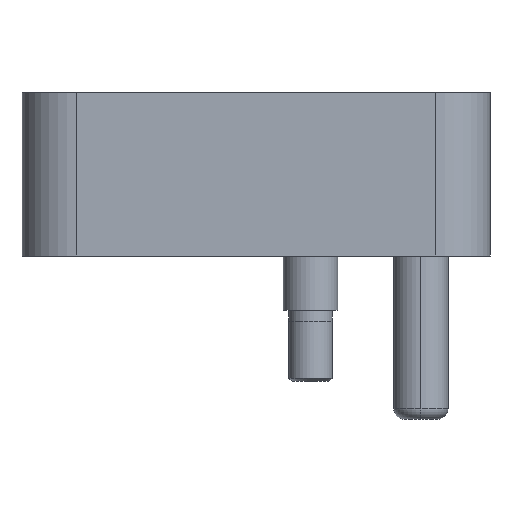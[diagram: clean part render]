
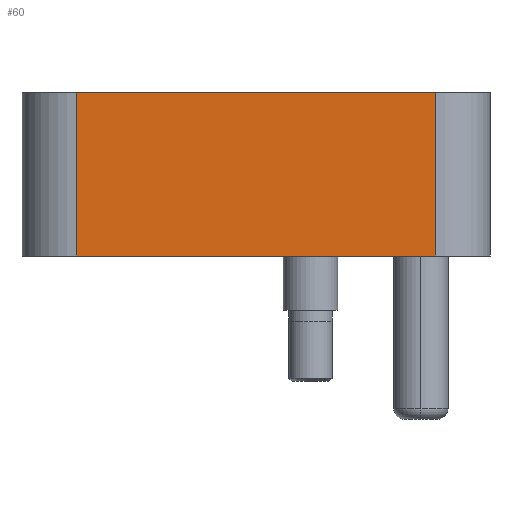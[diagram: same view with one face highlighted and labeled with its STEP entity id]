
A CAD part, front view. The second image highlights one B-rep face of the part: STEP entity #60.
In plain terms, the highlighted planar face has unit normal (0, -1, 0).
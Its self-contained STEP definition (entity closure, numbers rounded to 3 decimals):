
#59 = DIRECTION ( 'NONE',  ( 0., 0., 1. ) ) ;
#60 = ADVANCED_FACE ( 'NONE', ( #1034 ), #1593, .F. ) ;
#246 = VECTOR ( 'NONE', #59, 1000. ) ;
#422 = VERTEX_POINT ( 'NONE', #1570 ) ;
#438 = ORIENTED_EDGE ( 'NONE', *, *, #548, .T. ) ;
#520 = LINE ( 'NONE', #1381, #1309 ) ;
#548 = EDGE_CURVE ( 'NONE', #1260, #1317, #1054, .T. ) ;
#591 = DIRECTION ( 'NONE',  ( 1., 0., 0. ) ) ;
#629 = VECTOR ( 'NONE', #1298, 1000. ) ;
#657 = LINE ( 'NONE', #986, #246 ) ;
#658 = LINE ( 'NONE', #1867, #1460 ) ;
#676 = DIRECTION ( 'NONE',  ( 0., 1., 0. ) ) ;
#707 = ORIENTED_EDGE ( 'NONE', *, *, #1728, .F. ) ;
#783 = EDGE_CURVE ( 'NONE', #422, #1929, #657, .T. ) ;
#828 = EDGE_LOOP ( 'NONE', ( #1058, #1513, #707, #438 ) ) ;
#874 = CARTESIAN_POINT ( 'NONE',  ( -43., 0., 30. ) ) ;
#986 = CARTESIAN_POINT ( 'NONE',  ( 23., 0., 30. ) ) ;
#1034 = FACE_OUTER_BOUND ( 'NONE', #828, .T. ) ;
#1054 = LINE ( 'NONE', #874, #629 ) ;
#1058 = ORIENTED_EDGE ( 'NONE', *, *, #1779, .T. ) ;
#1098 = DIRECTION ( 'NONE',  ( 1., 0., 0. ) ) ;
#1122 = CARTESIAN_POINT ( 'NONE',  ( 0., 0., 30. ) ) ;
#1123 = CARTESIAN_POINT ( 'NONE',  ( -43., 0., 0. ) ) ;
#1204 = AXIS2_PLACEMENT_3D ( 'NONE', #1122, #676, #1763 ) ;
#1260 = VERTEX_POINT ( 'NONE', #1573 ) ;
#1271 = CARTESIAN_POINT ( 'NONE',  ( 23., 0., 30. ) ) ;
#1298 = DIRECTION ( 'NONE',  ( 0., 0., -1. ) ) ;
#1309 = VECTOR ( 'NONE', #591, 1000. ) ;
#1317 = VERTEX_POINT ( 'NONE', #1123 ) ;
#1381 = CARTESIAN_POINT ( 'NONE',  ( 0., 0., 0. ) ) ;
#1460 = VECTOR ( 'NONE', #1098, 1000. ) ;
#1513 = ORIENTED_EDGE ( 'NONE', *, *, #783, .T. ) ;
#1570 = CARTESIAN_POINT ( 'NONE',  ( 23., 0., 0. ) ) ;
#1573 = CARTESIAN_POINT ( 'NONE',  ( -43., 0., 30. ) ) ;
#1593 = PLANE ( 'NONE',  #1204 ) ;
#1728 = EDGE_CURVE ( 'NONE', #1260, #1929, #658, .T. ) ;
#1763 = DIRECTION ( 'NONE',  ( -1., 0., 0. ) ) ;
#1779 = EDGE_CURVE ( 'NONE', #1317, #422, #520, .T. ) ;
#1867 = CARTESIAN_POINT ( 'NONE',  ( 33., 0., 30. ) ) ;
#1929 = VERTEX_POINT ( 'NONE', #1271 ) ;
